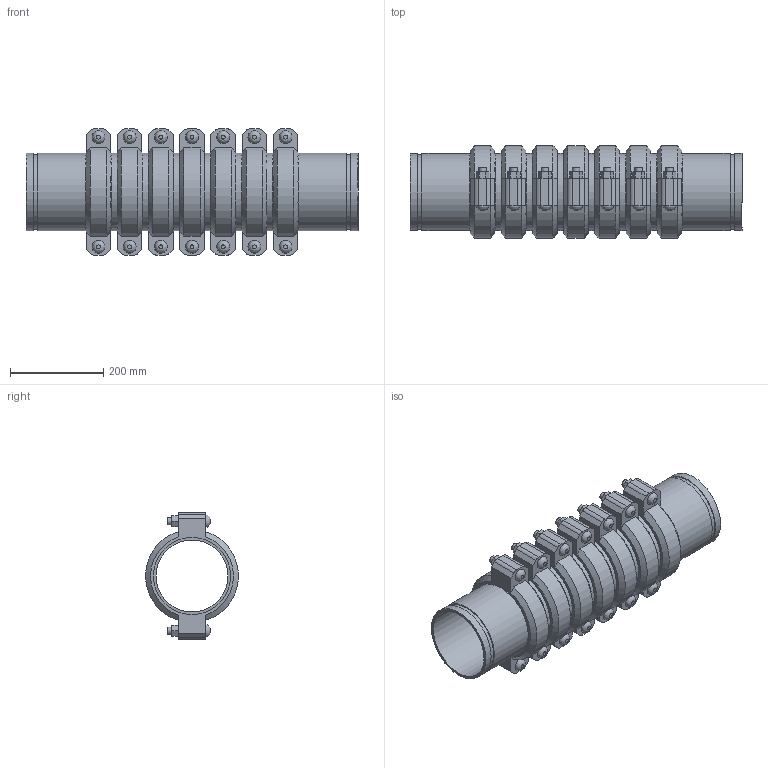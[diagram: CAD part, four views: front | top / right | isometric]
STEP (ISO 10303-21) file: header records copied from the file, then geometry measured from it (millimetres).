
FILE_DESCRIPTION(/* description */ ('VIC EXPANSION JOINT 7 COUPLINGS EXPANDED STYLE 155 (OGS)','CAx-IF Rec.Pracs.---Representation and Presentation of Product Manufacturing Information (PMI)---4.0---2014-10-13'),/* implementation_level */ '2;1');
FILE_NAME(/* name */ 'C:\Users\kkamble\AppData\Roaming\Autodesk\ApplicationPlugins\Victaulic.Temp\A179\Victaulic_IPS_Expansion Joint_Expanded_7 Couplings_Style 155 (OGS)_06.0 (165.1) (150).stp',/* time_stamp */ '2021-06-27T00:07:17+02:00',/* author */ ('kkamble'),/* organization */ ('Victaulic'),/* preprocessor_version */ 'ST-DEVELOPER v17.2',/* originating_system */ 'Autodesk Inventor 2019',/* authorisation */ '');
FILE_SCHEMA (('AP242_MANAGED_MODEL_BASED_3D_ENGINEERING_MIM_LF { 1 0 10303 442 1 1 4 }'));
Length unit declared in the file: inch
Products named in the file (4): 155-06.0 (165.1); Nipple-06.0 (165.1); Nipple-06.0 (165.1)_1; 075-06.0 (165.1)
Assembly tree (15 placements, depth 2):
  155-06.0 (165.1)
    Nipple-06.0 (165.1)  x2
    Nipple-06.0 (165.1)_1  x6
    075-06.0 (165.1)  x7
Bounding box: 711.2 x 198.42 x 270.76 mm (x, y, z)
Volume: 6693882.2 mm3; surface area: 1528626.3 mm2
Topology: 15 solids, 29 shells, 495 faces, 1171 edges, 822 vertices
Faces by surface type: plane 300, cylinder 153, cone 28, bspline 14
Full cylindrical faces by diameter (mm): 15.875 x28, 17.424 x14, 153.975 x8, 158.75 x7, 160.782 x16, 165.1 x38
Entity records: 2833 total; most frequent: CARTESIAN_POINT 499, DIRECTION 473, ORIENTED_EDGE 386, EDGE_CURVE 193, AXIS2_PLACEMENT_3D 190, VERTEX_POINT 138, EDGE_LOOP 107, LINE 93
